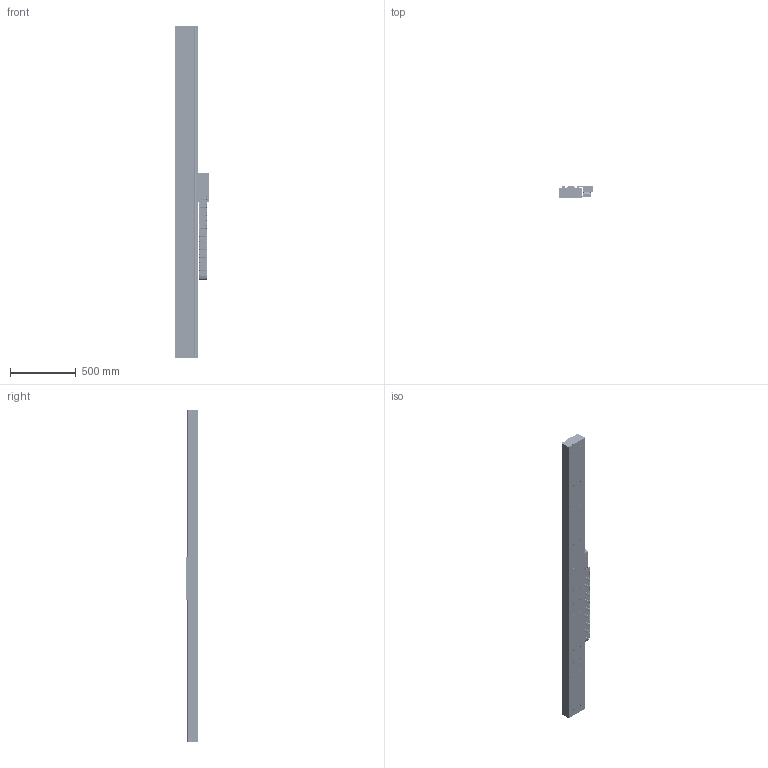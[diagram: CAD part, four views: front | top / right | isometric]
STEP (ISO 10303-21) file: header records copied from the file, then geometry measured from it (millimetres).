
FILE_DESCRIPTION (( 'STEP AP203' ), '1' );
FILE_NAME ('STF35230S-xC1B-Bxx.STEP', '2007-07-02T21:27:51', ( 'Yaskawa' ), ( 'Yaskawa' ), 'SwSTEP 2.0', 'SolidWorks 2007', '' );
FILE_SCHEMA (( 'CONFIG_CONTROL_DESIGN' ));
Length unit declared in the file: millimetre
Products named in the file (63): STF2035-001D F35-230 Carriage; STF35BM Base_STF35230-018; 07.50.028.0_115; STF2035-007 End Stop; 07.50.028.0_101; STF35230 Base_STF35BM-019; RGH22B; SGLFM-35540AC-2; STF2035-004 Flag; 07.50.028.0_117; STCM-004 Cable Assembly Side; 07.50.028.0_98; 07.50.028.0_113; 07.50.028.0_118; 07.50.028.0_100; End Stop with Bumper; 07.50.028.0_123; 07.50.028.0_102; 07.50.028.0_105; 07.50.028.0_111; STF2035-002B-R1 F35-230 Carriage Horn; 07.50.028.0_121; STF35230S-xC1B-Bxx; STCM-003 Cable Assembly Bottom; STCM-005-R1 Cable Assembly Cover; STCM-006-R1 Upper E-chain Bracket; 07.50.028.0_103; STF2035-006 Endplate; 07.50.028.0_119; 07.50.028.0_109; SGLFM-35324AC; STCM-R1; STF2035-005-R2 Cable Router; 07.50.028.0_99; 07.50.028.0_108; 07.50.028.0_110; 07.50.028.0_116; B18.3.5M - 3 x 0.5 x 6 Socket FCHS  -- 6N_B18.3.5M - 3 x 0.5 x 6 Socket FCHS  -- 6N; STCM-002-R2 Cable Assembly Front; 07.50.028.0_122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
Assembly tree (122 placements, depth 4):
  STF35230S-xC1B-Bxx
    STF2035-010-02 Side Cover 2_SS  x2
    STF35230 Complete Carriage
      STF2035-003 Renishaw Encoder Mount
      SSR15W Block  x6
      STF2035-002B-R1 F35-230 Carriage Horn  x2
      SGLFW-35A230AP
      STF2035-004 Flag
      RGH22B
      STF2035-001D F35-230 Carriage
      STF2035-005-R2 Cable Router
      STCM-R1
        Serial Converter
        STCM-005-R1 Cable Assembly Cover
        B18.3.5M - 3 x 0.5 x 6 Socket FCHS  -- 6N_B18.3.5M - 3 x 0.5 x 6 Socket FCHS  -- 6N  x6
        B18.3.4M - 3 x 0.5 x 12 SBHCS --N_B18.3.4M - 3 x 0.5 x 12 SBHCS --N  x4
        STCM-001-R2 Cable Bracket
        STCM-002-R2 Cable Assembly Front
        STCM-003 Cable Assembly Bottom
        STCM-004 Cable Assembly Side
        STCM-006-R1 Upper E-chain Bracket
    STF2035-009-02 Top Cover 2_SS
    STF35BM Base_STF35230-018
      SGLFM-35756AC  x2
      STF35230 Base_STF35BM-019
      End Stop with Bumper  x4
        Bumper-Medium
        B18.3.1M - 6 x 1.0 x 16 Hex SHCS -- 16NHX_B18.3.1M - 6 x 1.0 x 16 Hex SHCS -- 16NHX
        STF2035-007 End Stop
      Mult-SR15+580LY_35230-018  x2
      SGLFM-35540AC-2
      SGLFM-35324AC
    STF2035-006 Endplate  x2
    STF20230S
      07.50.028.0_110
      07.50.028.0_113
      07.50.028.0_111  x21
      07.50.028.0_97
      07.50.028.0_105  x20
      07.50.028.0_104
      07.50.028.0_120
      07.50.028.0_121
      07.50.028.0_102
      07.50.028.0_116
      07.50.028.0_100
      07.50.028.0_115
      07.50.028.0_109
      07.50.028.0_99
      07.50.028.0_114
      07.50.028.0_98
      07.50.028.0_118
      07.50.028.0_101
      07.50.028.0_103
      07.50.028.0_123
      07.50.028.0_96
      07.50.028.0_112
      07.50.028.0_119
      07.50.028.0_107
      07.50.028.0_122
      07.50.028.0_106
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Bounding box: 254.2 x 94.7 x 2529.05 mm (x, y, z)
Volume: 14156460.5 mm3; surface area: 4748563.9 mm2
Topology: 188 solids, 188 shells, 10144 faces, 26250 edges, 16737 vertices
Faces by surface type: plane 5158, cylinder 4128, cone 756, bspline 62, torus 32, sphere 8
Entity records: 171644 total; most frequent: DIRECTION 29257, CARTESIAN_POINT 28315, ORIENTED_EDGE 26782, EDGE_CURVE 13391, AXIS2_PLACEMENT_3D 10400, VERTEX_POINT 8757, VECTOR 8457, LINE 8457
